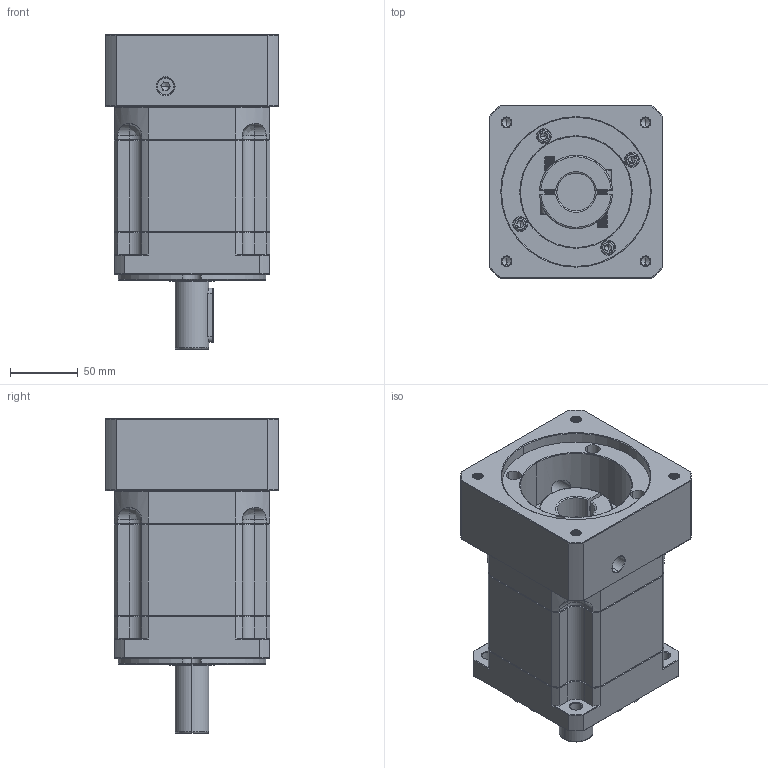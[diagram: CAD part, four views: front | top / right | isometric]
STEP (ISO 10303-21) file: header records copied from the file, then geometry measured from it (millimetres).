
FILE_DESCRIPTION (( 'STEP AP214' ), '1' );
FILE_NAME ('ZB115A-D25-L2-P2-28-110-145-M8.step', '2023-08-26T06:24:30', ( '' ), ( '' ), 'SwSTEP 2.0', 'SolidWorks 2016', '' );
FILE_SCHEMA (( 'AUTOMOTIVE_DESIGN' ));
Length unit declared in the file: millimetre
Products named in the file (1): ZB115A-D25-L2-P2-28-110-145-M8
Bounding box: 128 x 128 x 232 mm (x, y, z)
Volume: 2088047 mm3; surface area: 196020.8 mm2
Topology: 6 solids, 6 shells, 2390 faces, 6275 edges, 3984 vertices
Faces by surface type: plane 1143, cylinder 439, bspline 423, cone 365, torus 20
Entity records: 128742 total; most frequent: CARTESIAN_POINT 47138, ORIENTED_EDGE 12482, DIRECTION 9875, EDGE_CURVE 6241, LINE 3993, VECTOR 3993, VERTEX_POINT 3984, AXIS2_PLACEMENT_3D 2941
